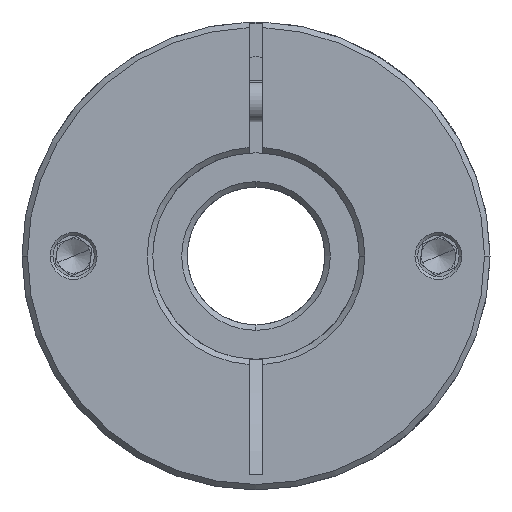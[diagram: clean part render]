
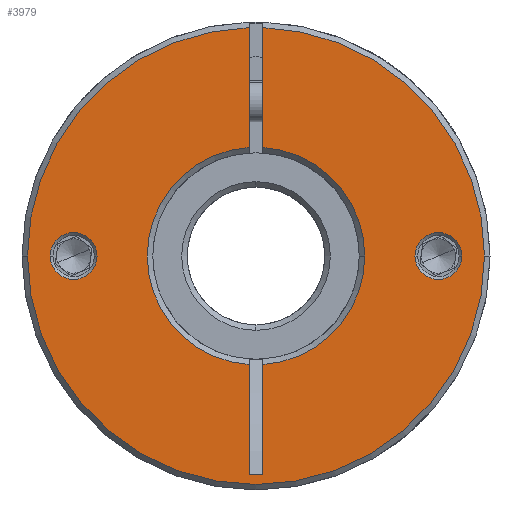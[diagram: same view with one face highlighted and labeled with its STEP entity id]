
A CAD part, front view. The second image highlights one B-rep face of the part: STEP entity #3979.
In plain terms, the highlighted planar face has unit normal (0, -1, 0).
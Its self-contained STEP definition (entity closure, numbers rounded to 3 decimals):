
#12 = EDGE_LOOP ( 'NONE', ( #9708, #7934 ) ) ;
#123 = EDGE_CURVE ( 'NONE', #13171, #2136, #10801, .T. ) ;
#134 = DIRECTION ( 'NONE',  ( 1., 0., 0. ) ) ;
#307 = EDGE_CURVE ( 'NONE', #9640, #12785, #8018, .T. ) ;
#433 = DIRECTION ( 'NONE',  ( 0., 1., 0. ) ) ;
#543 = EDGE_CURVE ( 'NONE', #5871, #13000, #9983, .T. ) ;
#590 = EDGE_CURVE ( 'NONE', #9281, #8486, #5218, .T. ) ;
#717 = VERTEX_POINT ( 'NONE', #4678 ) ;
#743 = LINE ( 'NONE', #9495, #3611 ) ;
#788 = CARTESIAN_POINT ( 'NONE',  ( -2.735, -47.045, 68. ) ) ;
#994 = EDGE_CURVE ( 'NONE', #12413, #2136, #13226, .T. ) ;
#1118 = DIRECTION ( 'NONE',  ( 1., 0., 0. ) ) ;
#1403 = AXIS2_PLACEMENT_3D ( 'NONE', #12132, #2876, #7926 ) ;
#1432 = VERTEX_POINT ( 'NONE', #2970 ) ;
#1490 = DIRECTION ( 'NONE',  ( 0., 1., 0. ) ) ;
#1523 = AXIS2_PLACEMENT_3D ( 'NONE', #5228, #7327, #1118 ) ;
#1639 = PLANE ( 'NONE',  #7568 ) ;
#1665 = CARTESIAN_POINT ( 'NONE',  ( -1.735, -47.045, 36.279 ) ) ;
#1696 = DIRECTION ( 'NONE',  ( 0., 0., -1. ) ) ;
#1974 = CARTESIAN_POINT ( 'NONE',  ( -29.235, -47.045, 68. ) ) ;
#2095 = EDGE_CURVE ( 'NONE', #8801, #5315, #13075, .T. ) ;
#2136 = VERTEX_POINT ( 'NONE', #2710 ) ;
#2306 = CARTESIAN_POINT ( 'NONE',  ( -2.735, -47.045, 68. ) ) ;
#2462 = DIRECTION ( 'NONE',  ( 0., -1., 0. ) ) ;
#2710 = CARTESIAN_POINT ( 'NONE',  ( -3.735, -47.045, 36.279 ) ) ;
#2876 = DIRECTION ( 'NONE',  ( 0., 1., 0. ) ) ;
#2970 = CARTESIAN_POINT ( 'NONE',  ( -1.735, -47.045, 101.185 ) ) ;
#2995 = ORIENTED_EDGE ( 'NONE', *, *, #123, .T. ) ;
#3007 = DIRECTION ( 'NONE',  ( 0., 1., 0. ) ) ;
#3035 = EDGE_LOOP ( 'NONE', ( #3686, #8182 ) ) ;
#3193 = CARTESIAN_POINT ( 'NONE',  ( -3.735, -47.045, 52.232 ) ) ;
#3440 = CARTESIAN_POINT ( 'NONE',  ( 23.765, -47.045, 68. ) ) ;
#3611 = VECTOR ( 'NONE', #4127, 1000. ) ;
#3665 = DIRECTION ( 'NONE',  ( 1., 0., 0. ) ) ;
#3686 = ORIENTED_EDGE ( 'NONE', *, *, #12936, .T. ) ;
#3953 = DIRECTION ( 'NONE',  ( 0., 0., -1. ) ) ;
#3978 = CARTESIAN_POINT ( 'NONE',  ( -32.635, -47.045, 68. ) ) ;
#3979 = ADVANCED_FACE ( 'NONE', ( #7124, #6780, #11375 ), #1639, .T. ) ;
#4095 = CARTESIAN_POINT ( 'NONE',  ( -3.735, -47.045, 101.185 ) ) ;
#4104 = CIRCLE ( 'NONE', #12890, 3.4 ) ;
#4127 = DIRECTION ( 'NONE',  ( 0., 0., -1. ) ) ;
#4167 = VECTOR ( 'NONE', #3953, 1000. ) ;
#4422 = EDGE_CURVE ( 'NONE', #5315, #6685, #11243, .T. ) ;
#4455 = ORIENTED_EDGE ( 'NONE', *, *, #10479, .T. ) ;
#4500 = DIRECTION ( 'NONE',  ( 0., 1., 0. ) ) ;
#4573 = AXIS2_PLACEMENT_3D ( 'NONE', #11132, #8986, #13192 ) ;
#4600 = CARTESIAN_POINT ( 'NONE',  ( -2.735, -47.045, 68. ) ) ;
#4678 = CARTESIAN_POINT ( 'NONE',  ( -3.735, -47.045, 83.768 ) ) ;
#5175 = CARTESIAN_POINT ( 'NONE',  ( 27.165, -47.045, 68. ) ) ;
#5218 = CIRCLE ( 'NONE', #5693, 3.4 ) ;
#5228 = CARTESIAN_POINT ( 'NONE',  ( -2.735, -47.045, 68. ) ) ;
#5315 = VERTEX_POINT ( 'NONE', #9070 ) ;
#5693 = AXIS2_PLACEMENT_3D ( 'NONE', #3440, #4500, #12737 ) ;
#5702 = CARTESIAN_POINT ( 'NONE',  ( -2.735, -47.045, 68. ) ) ;
#5739 = EDGE_CURVE ( 'NONE', #8486, #9281, #10561, .T. ) ;
#5871 = VERTEX_POINT ( 'NONE', #10281 ) ;
#5915 = DIRECTION ( 'NONE',  ( 1., 0., 0. ) ) ;
#6654 = CARTESIAN_POINT ( 'NONE',  ( -2.735, -47.045, 68. ) ) ;
#6660 = EDGE_CURVE ( 'NONE', #11485, #13171, #6894, .T. ) ;
#6685 = VERTEX_POINT ( 'NONE', #9103 ) ;
#6780 = FACE_BOUND ( 'NONE', #3035, .T. ) ;
#6781 = DIRECTION ( 'NONE',  ( 0., 1., 0. ) ) ;
#6813 = ORIENTED_EDGE ( 'NONE', *, *, #8439, .T. ) ;
#6894 = LINE ( 'NONE', #8901, #8379 ) ;
#6992 = CIRCLE ( 'NONE', #4573, 33.2 ) ;
#7119 = ORIENTED_EDGE ( 'NONE', *, *, #6660, .T. ) ;
#7124 = FACE_BOUND ( 'NONE', #12, .T. ) ;
#7303 = AXIS2_PLACEMENT_3D ( 'NONE', #788, #6781, #5915 ) ;
#7327 = DIRECTION ( 'NONE',  ( 0., 1., 0. ) ) ;
#7440 = EDGE_CURVE ( 'NONE', #1432, #5871, #743, .T. ) ;
#7463 = ORIENTED_EDGE ( 'NONE', *, *, #7440, .T. ) ;
#7500 = VECTOR ( 'NONE', #10280, 1000. ) ;
#7568 = AXIS2_PLACEMENT_3D ( 'NONE', #4600, #2462, #3665 ) ;
#7621 = DIRECTION ( 'NONE',  ( 0., -1., 0. ) ) ;
#7744 = ORIENTED_EDGE ( 'NONE', *, *, #2095, .T. ) ;
#7799 = AXIS2_PLACEMENT_3D ( 'NONE', #9792, #433, #10788 ) ;
#7926 = DIRECTION ( 'NONE',  ( 1., 0., 0. ) ) ;
#7934 = ORIENTED_EDGE ( 'NONE', *, *, #5739, .T. ) ;
#8018 = CIRCLE ( 'NONE', #7799, 3.4 ) ;
#8182 = ORIENTED_EDGE ( 'NONE', *, *, #307, .T. ) ;
#8244 = CARTESIAN_POINT ( 'NONE',  ( -3.735, -47.045, 68. ) ) ;
#8293 = ORIENTED_EDGE ( 'NONE', *, *, #994, .F. ) ;
#8379 = VECTOR ( 'NONE', #1696, 1000. ) ;
#8425 = CARTESIAN_POINT ( 'NONE',  ( 13.065, -47.045, 68. ) ) ;
#8439 = EDGE_CURVE ( 'NONE', #6685, #1432, #6992, .T. ) ;
#8486 = VERTEX_POINT ( 'NONE', #9034 ) ;
#8545 = AXIS2_PLACEMENT_3D ( 'NONE', #2306, #12900, #9622 ) ;
#8801 = VERTEX_POINT ( 'NONE', #4095 ) ;
#8880 = CARTESIAN_POINT ( 'NONE',  ( -25.835, -47.045, 68. ) ) ;
#8901 = CARTESIAN_POINT ( 'NONE',  ( -1.735, -47.045, 68. ) ) ;
#8936 = CARTESIAN_POINT ( 'NONE',  ( -3.735, -47.045, 36.279 ) ) ;
#8951 = ORIENTED_EDGE ( 'NONE', *, *, #543, .T. ) ;
#8955 = CARTESIAN_POINT ( 'NONE',  ( -1.735, -47.045, 52.232 ) ) ;
#8986 = DIRECTION ( 'NONE',  ( 0., -1., 0. ) ) ;
#9034 = CARTESIAN_POINT ( 'NONE',  ( 20.365, -47.045, 68. ) ) ;
#9070 = CARTESIAN_POINT ( 'NONE',  ( -35.935, -47.045, 68. ) ) ;
#9103 = CARTESIAN_POINT ( 'NONE',  ( 30.465, -47.045, 68. ) ) ;
#9281 = VERTEX_POINT ( 'NONE', #5175 ) ;
#9322 = AXIS2_PLACEMENT_3D ( 'NONE', #5702, #7621, #11929 ) ;
#9380 = DIRECTION ( 'NONE',  ( 0., 0., -1. ) ) ;
#9410 = CIRCLE ( 'NONE', #7303, 15.8 ) ;
#9432 = CARTESIAN_POINT ( 'NONE',  ( -3.735, -47.045, 68. ) ) ;
#9495 = CARTESIAN_POINT ( 'NONE',  ( -1.735, -47.045, 68. ) ) ;
#9622 = DIRECTION ( 'NONE',  ( 1., 0., 0. ) ) ;
#9640 = VERTEX_POINT ( 'NONE', #3978 ) ;
#9708 = ORIENTED_EDGE ( 'NONE', *, *, #590, .T. ) ;
#9792 = CARTESIAN_POINT ( 'NONE',  ( -29.235, -47.045, 68. ) ) ;
#9983 = CIRCLE ( 'NONE', #1523, 15.8 ) ;
#10075 = LINE ( 'NONE', #8244, #4167 ) ;
#10134 = VECTOR ( 'NONE', #9380, 1000. ) ;
#10280 = DIRECTION ( 'NONE',  ( -1., 0., 0. ) ) ;
#10281 = CARTESIAN_POINT ( 'NONE',  ( -1.735, -47.045, 83.768 ) ) ;
#10304 = EDGE_CURVE ( 'NONE', #8801, #717, #10075, .T. ) ;
#10328 = DIRECTION ( 'NONE',  ( 1., 0., 0. ) ) ;
#10479 = EDGE_CURVE ( 'NONE', #13000, #11485, #9410, .T. ) ;
#10561 = CIRCLE ( 'NONE', #1403, 3.4 ) ;
#10762 = AXIS2_PLACEMENT_3D ( 'NONE', #6654, #1490, #134 ) ;
#10788 = DIRECTION ( 'NONE',  ( 1., 0., 0. ) ) ;
#10801 = LINE ( 'NONE', #8936, #7500 ) ;
#11132 = CARTESIAN_POINT ( 'NONE',  ( -2.735, -47.045, 68. ) ) ;
#11243 = CIRCLE ( 'NONE', #8545, 33.2 ) ;
#11375 = FACE_OUTER_BOUND ( 'NONE', #13108, .T. ) ;
#11418 = EDGE_CURVE ( 'NONE', #12413, #717, #12974, .T. ) ;
#11485 = VERTEX_POINT ( 'NONE', #8955 ) ;
#11684 = ORIENTED_EDGE ( 'NONE', *, *, #4422, .T. ) ;
#11929 = DIRECTION ( 'NONE',  ( 1., 0., 0. ) ) ;
#12132 = CARTESIAN_POINT ( 'NONE',  ( 23.765, -47.045, 68. ) ) ;
#12413 = VERTEX_POINT ( 'NONE', #3193 ) ;
#12737 = DIRECTION ( 'NONE',  ( 1., 0., 0. ) ) ;
#12785 = VERTEX_POINT ( 'NONE', #8880 ) ;
#12890 = AXIS2_PLACEMENT_3D ( 'NONE', #1974, #3007, #10328 ) ;
#12900 = DIRECTION ( 'NONE',  ( 0., -1., 0. ) ) ;
#12936 = EDGE_CURVE ( 'NONE', #12785, #9640, #4104, .T. ) ;
#12974 = CIRCLE ( 'NONE', #10762, 15.8 ) ;
#13000 = VERTEX_POINT ( 'NONE', #8425 ) ;
#13075 = CIRCLE ( 'NONE', #9322, 33.2 ) ;
#13108 = EDGE_LOOP ( 'NONE', ( #13240, #7744, #11684, #6813, #7463, #8951, #4455, #7119, #2995, #8293, #13283 ) ) ;
#13171 = VERTEX_POINT ( 'NONE', #1665 ) ;
#13192 = DIRECTION ( 'NONE',  ( 1., 0., 0. ) ) ;
#13226 = LINE ( 'NONE', #9432, #10134 ) ;
#13240 = ORIENTED_EDGE ( 'NONE', *, *, #10304, .F. ) ;
#13283 = ORIENTED_EDGE ( 'NONE', *, *, #11418, .T. ) ;
